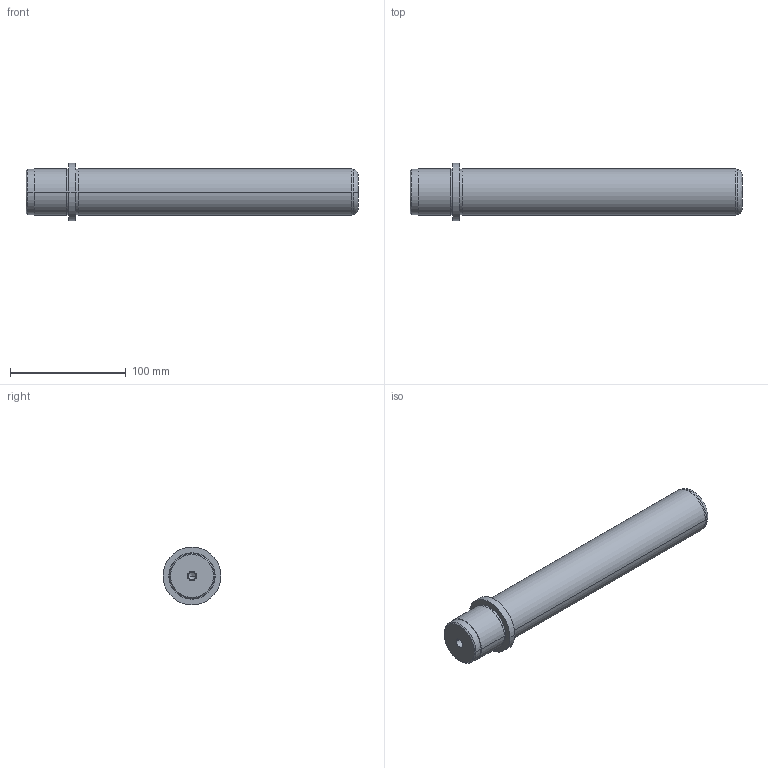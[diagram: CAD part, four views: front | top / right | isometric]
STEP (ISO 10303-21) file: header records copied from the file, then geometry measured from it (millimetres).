
FILE_DESCRIPTION( ( 'STEP AP203' ), '1' );
FILE_NAME( 'D:/Delta 3 D/D00/D00 - 40x250x37.step', '2003-01-02T07:14:18', ( ' ' ), ( ' ' ), 'XStep 1.0', ' ', ' ' );
FILE_SCHEMA( ( 'CONFIG_CONTROL_DESIGN' ) );
Length unit declared in the file: metre
Products named in the file (1): 1
Bounding box: 287 x 50 x 50 mm (x, y, z)
Volume: 361320.7 mm3; surface area: 41192.6 mm2
Topology: 1 solids, 1 shells, 39 faces, 78 edges, 48 vertices
Faces by surface type: revolution 28, bspline 11
Entity records: 1137 total; most frequent: CARTESIAN_POINT 277, DIRECTION 154, ORIENTED_EDGE 152, EDGE_CURVE 76, AXIS2_PLACEMENT_3D 49, EDGE_LOOP 48, VERTEX_POINT 48, CIRCLE 48
